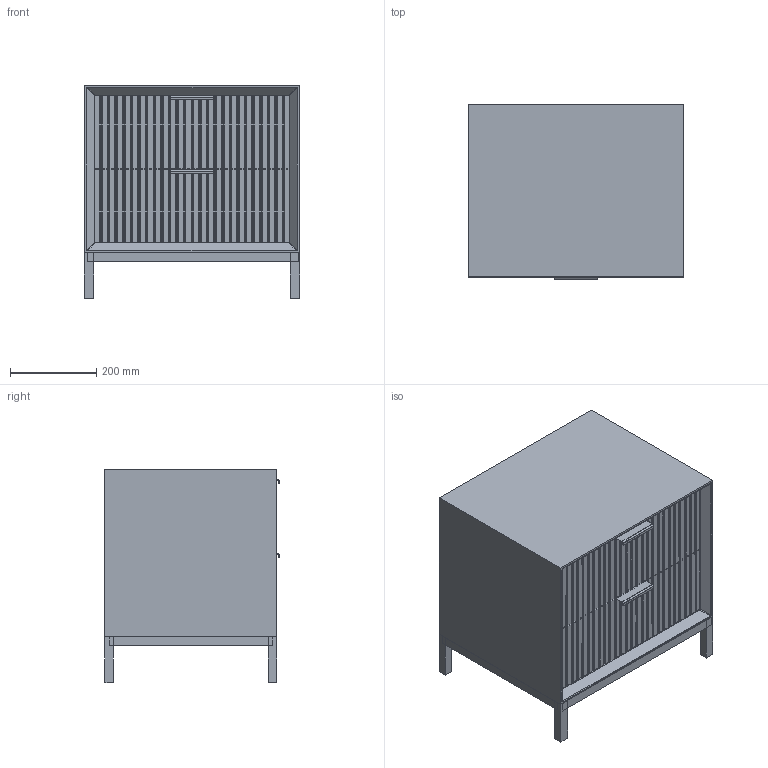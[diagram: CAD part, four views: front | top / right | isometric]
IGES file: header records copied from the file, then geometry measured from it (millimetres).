
Global section: file name: 16HC:\Users\Monika; native system: Rhinoceros ( Feb  8 2022 ); preprocessor: Trout Lake IGES 012 Feb  8 2022; date: 230924.164129; units: millimetre
Bounding box: 500 x 405.12 x 495.12 mm (x, y, z)
Surface area: 2245219.2 mm2 (no closed solid volume)
Topology: 0 solids, 0 shells, 902 faces, 4669 edges, 4673 vertices
Faces by surface type: bspline 902
